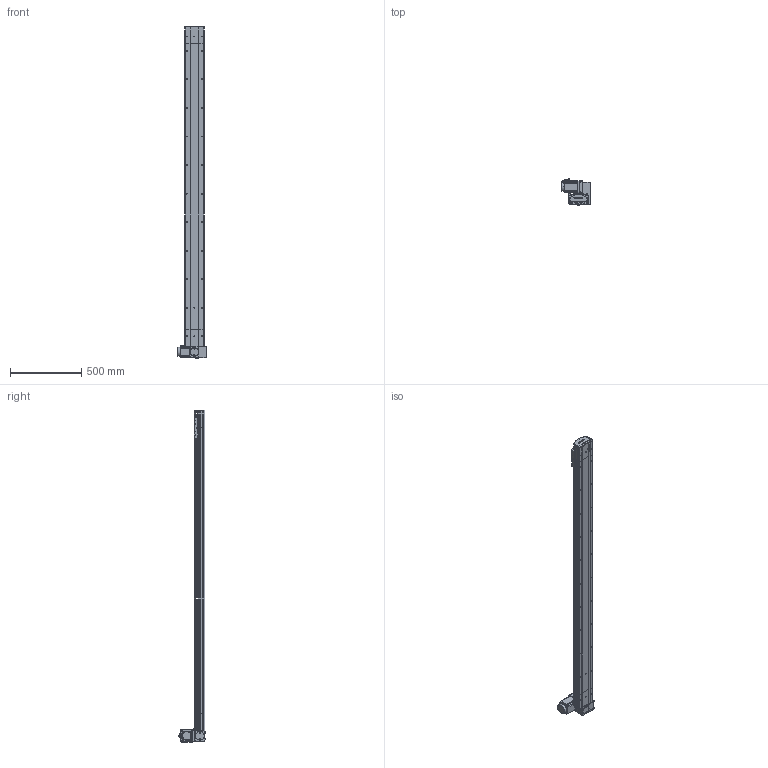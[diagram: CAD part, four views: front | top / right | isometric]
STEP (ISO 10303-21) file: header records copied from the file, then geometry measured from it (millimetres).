
FILE_DESCRIPTION (( 'STEP AP214' ), '1' );
FILE_NAME ('D14 TBH LT S2000.STEP', '2010-06-29T14:15:58', ( 'Conseil Régional Haute-Normandie' ), ( 'Conseil Régional Haute-Normandie' ), 'SwSTEP 2.0', 'SolidWorks 2010', '' );
FILE_SCHEMA (( 'AUTOMOTIVE_DESIGN' ));
Length unit declared in the file: millimetre
Products named in the file (39): vis M5 L12_Default; Vis M5 L16-2_Default; guide D14; Cache_Default; Conecteur_Default; vis M5 L5_Default; chariot D14B_Default; Plaque racord D14_Default; Cvis M5 L70_Default; Cache arbre_Default; renvoi LH_Default; Chariot D14; plaque de  bout tail D14_Default; corpl tail D14_Default; Tail D14B_Default; couvercle D14 course L2000_Default; Rail + couroie D14 Course 2000 ; corpl 2000_Default; D14 couroie L2000_Default; D14 TBH LT S2000; vis M5 L16_Default; Conecteur2_Default; codeur 90BLDC100-640; corps 90BLDC100A-640; avant 90BLDC100A-640; Couroie_Default; Arbre+rail tail D14; poulie head_Default; tete d''axe haut D14; couvercle D14_Default; poulie tail_Default; corp head D14_Default; D14 TB H LT_Default; vis M5 L8 90°_Default; Moteur motionking 90BLDC100A-640; couvercle D14 head_Default; couroie 2_Default; Arbre+rail head D14; plaque de  bout head D14 LT_Default
Assembly tree (68 placements, depth 4):
  D14 TBH LT S2000
    D14 couroie L2000_Default
      corpl 2000_Default
      couvercle D14 course L2000_Default
      Rail + couroie D14 Course 2000 
    chariot D14B_Default
      guide D14  x2
      Chariot D14
      vis M5 L12_Default  x4
    Tail D14B_Default
      tete d''axe haut D14
      Arbre+rail tail D14
      corpl tail D14_Default
      vis M5 L8 90°_Default  x2
      poulie tail_Default
      couvercle D14_Default
      vis M5 L16_Default  x2
      plaque de  bout tail D14_Default
      Couroie_Default
      vis M5 L12_Default  x4
    D14 TB H LT_Default
      vis M5 L12_Default  x12
      Arbre+rail head D14
      Cvis M5 L70_Default  x4
      Vis M5 L16-2_Default  x4
      couroie 2_Default
      Plaque racord D14_Default
      Cache arbre_Default
      Cache_Default  x2
      Moteur motionking 90BLDC100A-640
        avant 90BLDC100A-640
        codeur 90BLDC100-640
        Conecteur_Default
        corps 90BLDC100A-640
        Conecteur2_Default
      couvercle D14 head_Default
      plaque de  bout head D14 LT_Default
      poulie head_Default
      vis M5 L5_Default  x2
      renvoi LH_Default
      corp head D14_Default
Bounding box: 207.2 x 189.1 x 2325.75 mm (x, y, z)
Volume: 9125256.6 mm3; surface area: 3207618.2 mm2
Topology: 92 solids, 92 shells, 2693 faces, 6575 edges, 4242 vertices
Faces by surface type: plane 1605, cylinder 775, bspline 136, torus 89, cone 84, sphere 4
Entity records: 81044 total; most frequent: CARTESIAN_POINT 23849, ORIENTED_EDGE 10010, DIRECTION 9864, EDGE_CURVE 5005, VECTOR 3322, LINE 3322, VERTEX_POINT 3292, AXIS2_PLACEMENT_3D 3271
